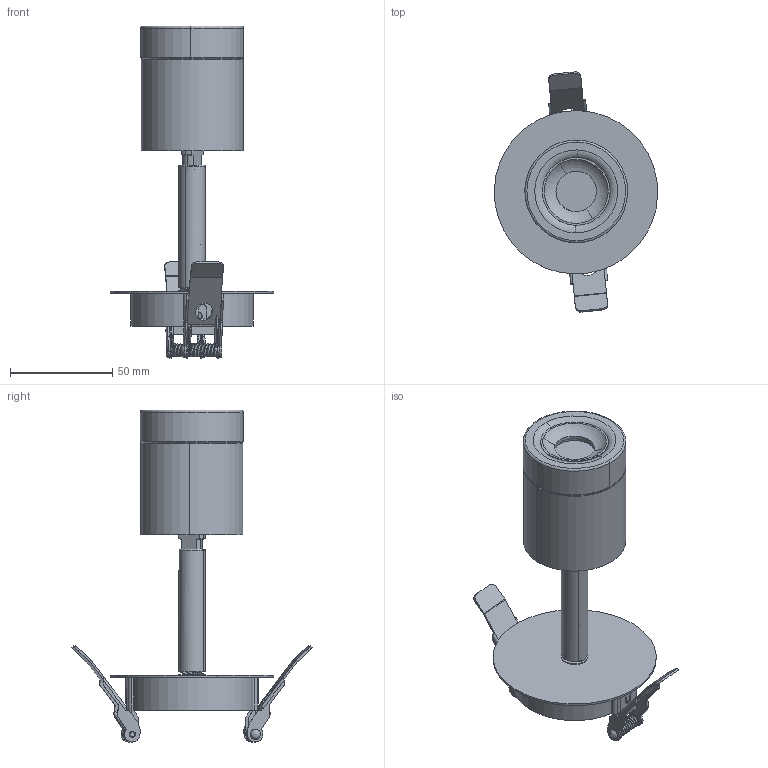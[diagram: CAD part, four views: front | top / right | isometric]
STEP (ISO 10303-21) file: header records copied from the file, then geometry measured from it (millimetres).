
FILE_DESCRIPTION (( 'STEP AP214' ), '1' );
FILE_NAME ('MIMU_empotrable.STEP', '2026-04-30T07:32:45', ( '' ), ( '' ), 'SwSTEP 2.0', 'SolidWorks 2023', '' );
FILE_SCHEMA (( 'AUTOMOTIVE_DESIGN' ));
Length unit declared in the file: millimetre
Products named in the file (30): 818754A0.STEP; MIMU_empotrable; 114-VTEC0600-00-3D0.STEP; T0314 recessed spotlight.STEP; ______.STEP; 115-800585-001.STEP; ______-1.STEP; 818744A0.STEP; 818752A0.STEP; ______-0.STEP; __.STEP; ________.STEP; M6__D____.STEP; 114-VTEC2506-11-3D0.STEP; 818750A0.STEP; 870738A.STEP; ____-2.STEP; 114-800586-001__A_O.STEP; _____1.STEP; 818753A0.STEP; 818751A0.STEP; 818746A0.STEP; 818755A0.STEP; 818749A0.STEP; 818745A0.STEP; 818747A0.STEP; 818748A0.STEP; ____.STEP; ______2.STEP; 818691A0.STEP
Assembly tree (33 placements, depth 4):
  MIMU_empotrable
    T0314 recessed spotlight.STEP
      870738A.STEP  x2
        ______2.STEP
        ______.STEP
        ____.STEP
        __.STEP
      115-800585-001.STEP
      114-800586-001__A_O.STEP
      818691A0.STEP
      818746A0.STEP
      818745A0.STEP
      818750A0.STEP
      818751A0.STEP
      818754A0.STEP
      818749A0.STEP
      818744A0.STEP
      818755A0.STEP
      818753A0.STEP
      818752A0.STEP
      114-VTEC2506-11-3D0.STEP  x2
      818748A0.STEP
      818747A0.STEP
      ______-0.STEP
      ______-1.STEP
      ________.STEP  x2
      ____-2.STEP
      _____1.STEP  x2
      M6__D____.STEP
      114-VTEC0600-00-3D0.STEP
Bounding box: 79.96 x 117.57 x 162.48 mm (x, y, z)
Volume: 84501.5 mm3; surface area: 80553 mm2
Topology: 37 solids, 37 shells, 949 faces, 2448 edges, 1597 vertices
Faces by surface type: plane 383, cylinder 276, bspline 204, cone 62, torus 16, sphere 8
Entity records: 32382 total; most frequent: CARTESIAN_POINT 13375, ORIENTED_EDGE 3968, DIRECTION 3334, EDGE_CURVE 1984, VERTEX_POINT 1297, AXIS2_PLACEMENT_3D 1174, LINE 986, VECTOR 986
